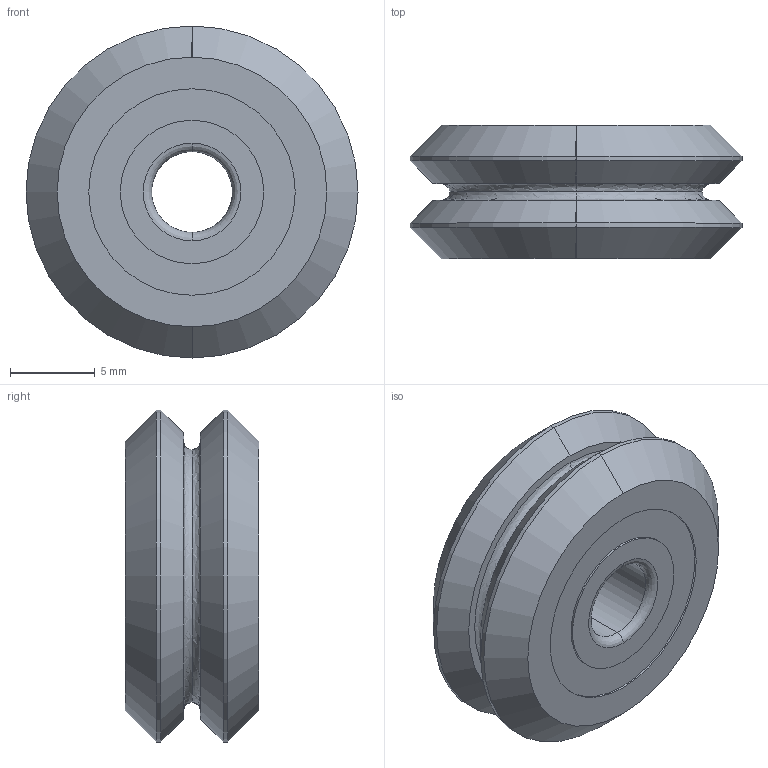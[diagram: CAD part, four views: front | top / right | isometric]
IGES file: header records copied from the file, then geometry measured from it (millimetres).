
Start section: 3D InterOp IGES (v. 2019 1.0.2), Spatial Corp. Copyright (c) 1999-2017.
Global section: file name: W1SS227.igs; native system: Spatial Corp.; preprocessor: 3D InterOp GENERIC/IGES 3.0; author: Noname; organization: Noname; date: 20200930.105808; units: millimetre
Bounding box: 19.58 x 7.87 x 19.58 mm (x, y, z)
Surface area: 1136.2 mm2 (no closed solid volume)
Topology: 0 solids, 0 shells, 38 faces, 152 edges, 152 vertices
Faces by surface type: revolution 30, extrusion 8
